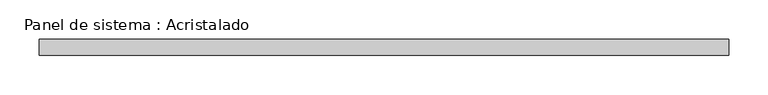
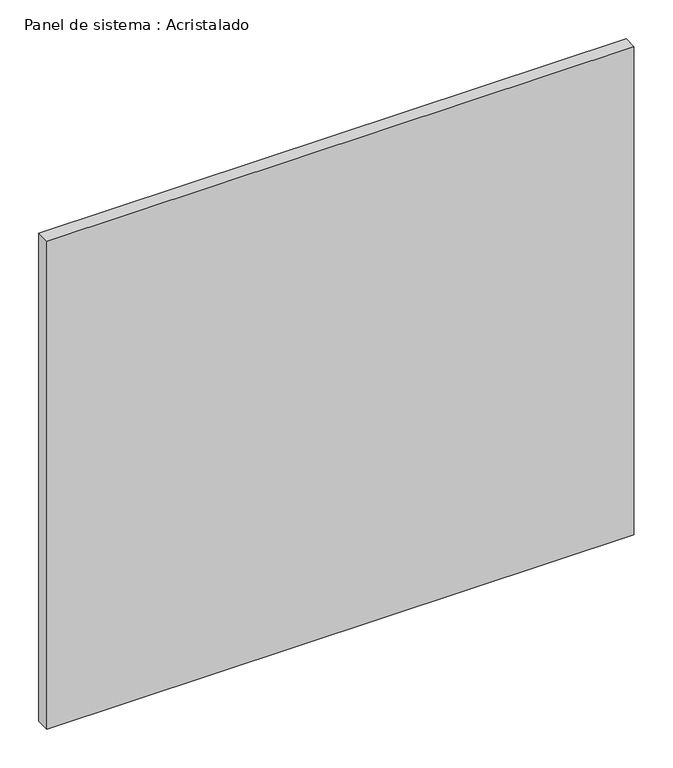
"""IFC4 building model written with IfcOpenShell, lengths in millimetres: plate geometry, Panel de sistema : Acristalado."""

from ifc_helpers import new_model, si_unit, origin, origin_with_axes, place, context, project, spatial, polyline, outline, extrude, source, transform, mapped, element, save


def panel_de_sistema_acristalado_6785d2cd(model_context):
    return source(origin(), model_context, "Body", "SweptSolid", [
        extrude(outline(polyline([(436.25, -10.0), (-436.25, -10.0), (-436.25, 10.0), (436.25, 10.0), (436.25, -10.0)])), origin_with_axes(), (0.0, 0.0, 1.0), 766.6666667),
    ])


if __name__ == "__main__":
    model = new_model("IFC4")
    model_context = context("Model", 3, world=origin())
    ifc_project = project(units=[si_unit("LENGTHUNIT", "METRE", prefix="MILLI")], contexts=[model_context])
    site = spatial("IfcSite", under=ifc_project)
    building = spatial("IfcBuilding", under=site)
    placement = place(None, origin())
    panel_de_sistema_acristalado_shape = panel_de_sistema_acristalado_6785d2cd(model_context)
    element("IfcPlate", 1, ObjectType="Panel de sistema : Acristalado", at=placement, inside=building, context=model_context, shape_type="MappedRepresentation", body=[
        mapped(panel_de_sistema_acristalado_shape, transform((0.0, 0.0, 0.0), x_axis=(1.0, 0.0, 0.0), y_axis=(0.0, 1.0, 0.0), z_axis=(0.0, 0.0, 1.0))),
    ])
    save(model, "model.ifc")
